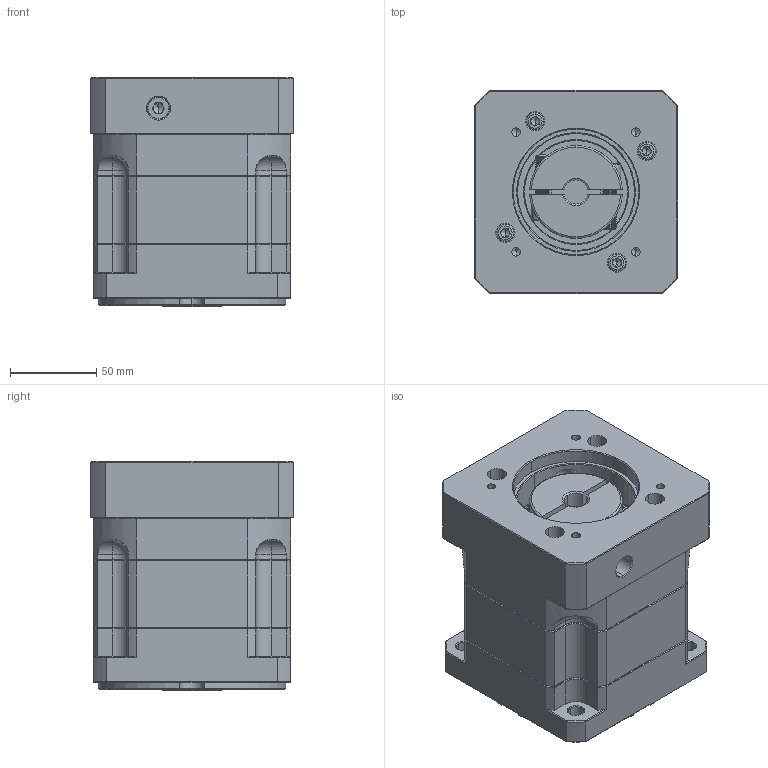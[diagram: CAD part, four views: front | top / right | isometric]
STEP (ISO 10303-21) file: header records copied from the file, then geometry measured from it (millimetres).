
FILE_DESCRIPTION (( 'STEP AP214' ), '1' );
FILE_NAME ('ZB115A-K25-L1-P2-14-73-69.6X69.6-M6.step', '2023-08-26T06:33:47', ( '' ), ( '' ), 'SwSTEP 2.0', 'SolidWorks 2016', '' );
FILE_SCHEMA (( 'AUTOMOTIVE_DESIGN' ));
Length unit declared in the file: millimetre
Products named in the file (1): ZB115A-K25-L1-P2-14-73-69.6X69.6-M6
Bounding box: 118 x 118 x 133.5 mm (x, y, z)
Volume: 1475295.2 mm3; surface area: 158535.4 mm2
Topology: 6 solids, 6 shells, 2137 faces, 5680 edges, 3643 vertices
Faces by surface type: plane 1129, bspline 390, cone 322, cylinder 264, torus 28, sphere 4
Entity records: 105561 total; most frequent: CARTESIAN_POINT 31216, ORIENTED_EDGE 11296, DIRECTION 9222, EDGE_CURVE 5648, VECTOR 3730, LINE 3730, VERTEX_POINT 3643, AXIS2_PLACEMENT_3D 2746
